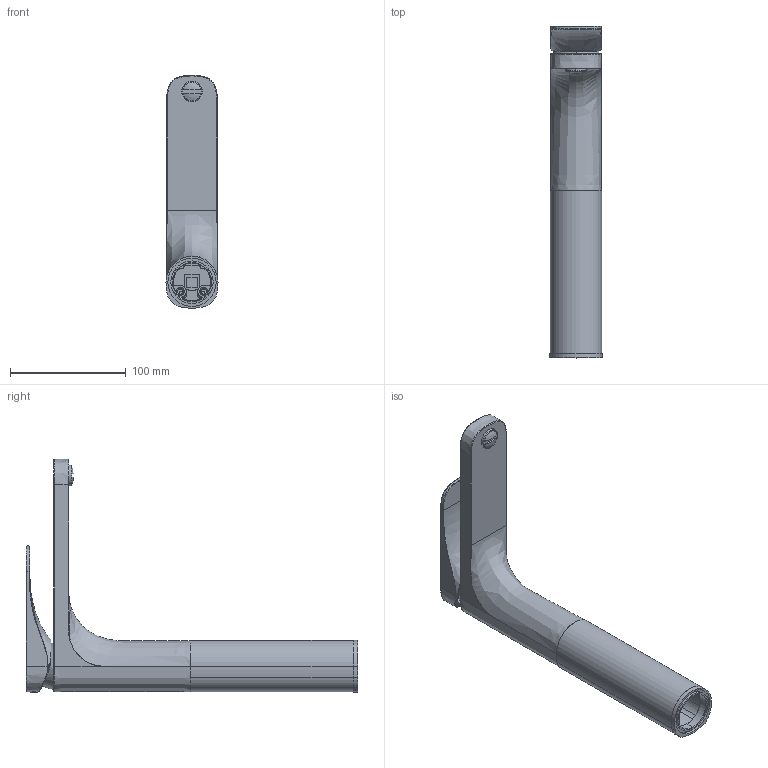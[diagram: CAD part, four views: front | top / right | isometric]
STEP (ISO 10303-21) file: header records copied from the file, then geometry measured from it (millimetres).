
FILE_DESCRIPTION((''),'2;1');
FILE_NAME('F3731','2012-11-07T',('ivanv'),(''),'PRO/ENGINEER BY PARAMETRIC TECHNOLOGY CORPORATION, 2011370','PRO/ENGINEER BY PARAMETRIC TECHNOLOGY CORPORATION, 2011370','');
FILE_SCHEMA(('CONFIG_CONTROL_DESIGN'));
Length unit declared in the file: millimetre
Products named in the file (1): F3731
Bounding box: 45 x 287 x 201.88 mm (x, y, z)
Volume: 196639.2 mm3; surface area: 132491.1 mm2
Topology: 1 solids, 1 shells, 394 faces, 977 edges, 602 vertices
Faces by surface type: cylinder 138, plane 127, bspline 56, cone 37, torus 17, extrusion 15, sphere 4
Entity records: 22325 total; most frequent: CARTESIAN_POINT 13343, ORIENTED_EDGE 1946, DIRECTION 1743, EDGE_CURVE 973, AXIS2_PLACEMENT_3D 666, VERTEX_POINT 602, EDGE_LOOP 433, VECTOR 411
